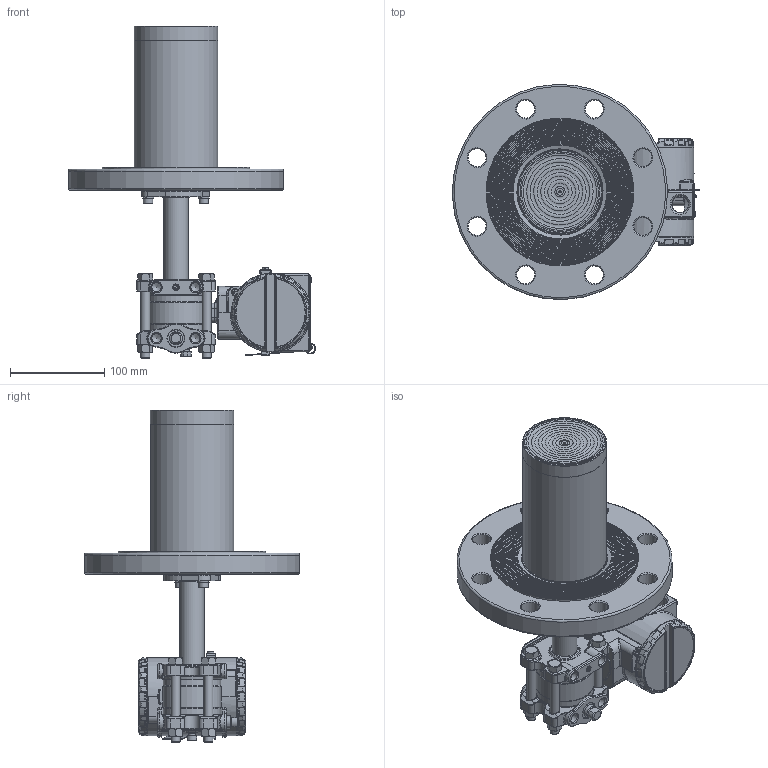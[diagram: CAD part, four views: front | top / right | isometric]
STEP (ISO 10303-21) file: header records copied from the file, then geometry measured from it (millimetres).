
FILE_DESCRIPTION(/* description */ (''),/* implementation_level */ '2;1');
FILE_NAME(/* name */ 'F:\Area\Desenvolvimento_2\Projects\Sensor\projetos\LD30X\montagens 3d - clientes\SELO NIVEL\LD30XL 4-150 RF ext 150 ref 1-4NPT purga acima.stp',/* time_stamp */ '2023-02-15T08:13:01-03:00',/* author */ ('inventor02'),/* organization */ (''),/* preprocessor_version */ 'ST-DEVELOPER v17',/* originating_system */ 'Autodesk Inventor 2019',/* authorisation */ '');
FILE_SCHEMA (('CONFIG_CONTROL_DESIGN'));
Products named in the file (41): LD30XL 4-150 RF ext 150 ref 1-4NPT purga acima; 204-0301-L-4 150 RF ext 150 purga acima; nivel fx3 com baixa diferencial 1-4NPT purga acima; involucro fx0-3 apos a usinagem final; flange diferencial std purga; 101-C-7484-01 flange selo nivel VR; 201-A-0504-tubo união teste 1; bujao 1-4NPT; Sangria; Porca 3-8 x 16 UNC; Paraf. 3-8 x 16 UNC; adaptação tubo x flanges 1-1-2 a 4pol; 101-B-0161-anel cortado do tubo - teste1; 101-B-0162-flange fixação tubo; ANSI B18.3.1M - M6x1 x 16; DIN 127 - A 6; flange 4 150 ext 150; 096-B-0212-15; 101-B-7702-02 ext 4-150; 101-C-0114-11; carcaça vazia com tampas e plaqueta; carcaça LD inox sem letras; Subconjunto plaqueta 300; Plaqueta transmissor; Parafuso da Plaqueta; Rebite da Plaqueta; 096-A-0169-03; 101-A-0502-01; Chapa aterramento externo; ISO 1207 - M4 x 8; DIN 915 - M6 x 10; ANSI B18.3.1M - M4x0,7 x 8; Subconjunto tampa com visor aluminio; tampa pintada; VIDRO DO VISOR; oring 41x1 vidro tampa; Trava do vidro da tampa com visor; trava do vidro VH256; Subconjunto tampa sem visor-aluminio; tampa cega 300 pintada p0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
Assembly tree (51 placements, depth 4):
  LD30XL 4-150 RF ext 150 ref 1-4NPT purga acima
    204-0301-L-4 150 RF ext 150 purga acima
      nivel fx3 com baixa diferencial 1-4NPT purga acima
        involucro fx0-3 apos a usinagem final
        flange diferencial std purga
        101-C-7484-01 flange selo nivel VR
        201-A-0504-tubo união teste 1
        DIN 915 - M6 x 10
        bujao 1-4NPT
        Sangria
        Porca 3-8 x 16 UNC  x4
        Paraf. 3-8 x 16 UNC  x4
      adaptação tubo x flanges 1-1-2 a 4pol
        101-B-0161-anel cortado do tubo - teste1
        101-B-0162-flange fixação tubo
        ANSI B18.3.1M - M6x1 x 16  x2
        DIN 127 - A 6  x2
      flange 4 150 ext 150
        096-B-0212-15
        101-B-7702-02 ext 4-150
        101-C-0114-11
    carcaça vazia com tampas e plaqueta
      carcaça LD inox sem letras
      Subconjunto plaqueta 300
        Plaqueta transmissor
        Parafuso da Plaqueta
        Rebite da Plaqueta
        096-A-0169-03
        101-A-0502-01
      Chapa aterramento externo
      ISO 1207 - M4 x 8
      DIN 915 - M6 x 10
      ANSI B18.3.1M - M4x0,7 x 8  x2
      Subconjunto tampa com visor aluminio
        tampa pintada
        VIDRO DO VISOR
        oring 41x1 vidro tampa
        Trava do vidro da tampa com visor
        trava do vidro VH256
        00034775-0
      Subconjunto tampa sem visor-aluminio
        tampa cega 300 pintada p0
        00034775-0
Bounding box: 262.48 x 228.38 x 352.6 mm (x, y, z)
Volume: 1774341 mm3; surface area: 451661.2 mm2
Topology: 43 solids, 43 shells, 2799 faces, 6670 edges, 3957 vertices
Faces by surface type: bspline 666, cylinder 660, plane 590, torus 501, cone 256, sphere 126
Full cylindrical faces by diameter (mm): 2 x4, 2.1 x2, 2.459 x5, 2.5 x1, 2.642 x1, 2.7 x1, 2.8 x1, 3 x4, 3.242 x4, 3.5 x5, 3.571 x1, 4 x5, 4.3 x1, 4.4 x1, 4.917 x4, 5 x1, 5.5 x3, 6 x6, 6.647 x1, 7 x7, 7.087 x2, 7.6 x2, 7.798 x4, 8 x1, 8.7 x2, 9.525 x4, 9.728 x6, 10 x2, 10.5 x8, 10.719 x2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
Entity records: 96163 total; most frequent: CARTESIAN_POINT 34875, DIRECTION 12705, ORIENTED_EDGE 12520, EDGE_CURVE 6260, AXIS2_PLACEMENT_3D 5625, VERTEX_POINT 3763, CIRCLE 3336, EDGE_LOOP 2877
